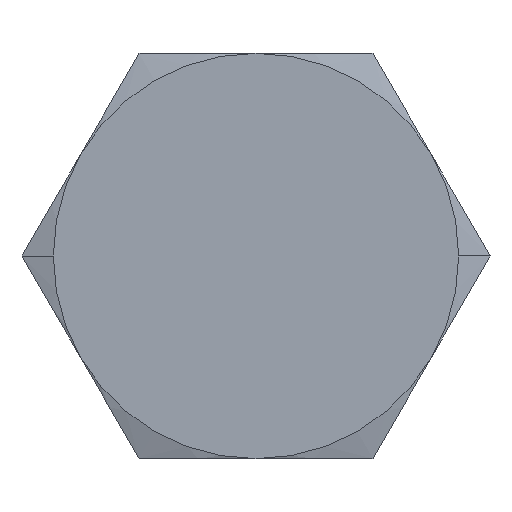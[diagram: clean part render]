
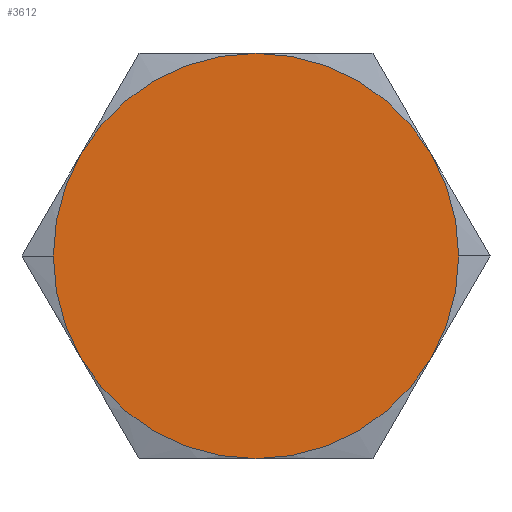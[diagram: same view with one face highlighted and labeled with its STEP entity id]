
A CAD part, left-side view. The second image highlights one B-rep face of the part: STEP entity #3612.
In plain terms, the highlighted planar face has unit normal (-1, 0, 0).
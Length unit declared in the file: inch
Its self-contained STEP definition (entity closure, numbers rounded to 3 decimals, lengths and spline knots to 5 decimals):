
#2576=CARTESIAN_POINT('',(8.26079,5.53675,0.));
#2577=VERTEX_POINT('',#2576);
#2584=CARTESIAN_POINT('',(8.26079,5.46976,-0.25));
#2585=VERTEX_POINT('',#2584);
#2599=CARTESIAN_POINT('',(8.26079,5.03675,0.));
#2600=DIRECTION('',(-1.0,0.0,0.0));
#2601=DIRECTION('',(0.0,1.0,0.0));
#2602=AXIS2_PLACEMENT_3D('',#2599,#2600,#2601);
#2603=CIRCLE('',#2602,0.5);
#2604=EDGE_CURVE('',#2577,#2585,#2603,.T.);
#2614=CARTESIAN_POINT('',(8.26079,4.53675,0.));
#2615=VERTEX_POINT('',#2614);
#2624=CARTESIAN_POINT('',(8.26079,4.60373,-0.25));
#2625=VERTEX_POINT('',#2624);
#2626=CARTESIAN_POINT('',(8.26079,5.03675,0.));
#2627=DIRECTION('',(-1.0,0.0,0.0));
#2628=DIRECTION('',(0.0,1.0,0.0));
#2629=AXIS2_PLACEMENT_3D('',#2626,#2627,#2628);
#2630=CIRCLE('',#2629,0.5);
#2631=EDGE_CURVE('',#2625,#2615,#2630,.T.);
#2656=CARTESIAN_POINT('',(8.26079,4.60373,0.25));
#2657=VERTEX_POINT('',#2656);
#2671=CARTESIAN_POINT('',(8.26079,5.03675,0.5));
#2672=VERTEX_POINT('',#2671);
#2686=CARTESIAN_POINT('',(8.26079,5.03675,0.));
#2687=DIRECTION('',(-1.0,0.0,0.0));
#2688=DIRECTION('',(0.0,1.0,0.0));
#2689=AXIS2_PLACEMENT_3D('',#2686,#2687,#2688);
#2690=CIRCLE('',#2689,0.5);
#2691=EDGE_CURVE('',#2657,#2672,#2690,.T.);
#2715=CARTESIAN_POINT('',(8.26079,5.03675,0.));
#2716=DIRECTION('',(-1.0,0.0,0.0));
#2717=DIRECTION('',(0.0,1.0,0.0));
#2718=AXIS2_PLACEMENT_3D('',#2715,#2716,#2717);
#2719=CIRCLE('',#2718,0.5);
#2720=EDGE_CURVE('',#2615,#2657,#2719,.T.);
#2732=CARTESIAN_POINT('',(8.26079,5.03675,-0.5));
#2733=VERTEX_POINT('',#2732);
#2760=CARTESIAN_POINT('',(8.26079,5.03675,0.));
#2761=DIRECTION('',(-1.0,0.0,0.0));
#2762=DIRECTION('',(0.0,1.0,0.0));
#2763=AXIS2_PLACEMENT_3D('',#2760,#2761,#2762);
#2764=CIRCLE('',#2763,0.5);
#2765=EDGE_CURVE('',#2733,#2625,#2764,.T.);
#2790=CARTESIAN_POINT('',(8.26079,5.03675,0.));
#2791=DIRECTION('',(-1.0,0.0,0.0));
#2792=DIRECTION('',(0.0,1.0,0.0));
#2793=AXIS2_PLACEMENT_3D('',#2790,#2791,#2792);
#2794=CIRCLE('',#2793,0.5);
#2795=EDGE_CURVE('',#2585,#2733,#2794,.T.);
#2819=CARTESIAN_POINT('',(8.26079,5.46976,0.25));
#2820=VERTEX_POINT('',#2819);
#2821=CARTESIAN_POINT('',(8.26079,5.03675,0.));
#2822=DIRECTION('',(-1.0,0.0,0.0));
#2823=DIRECTION('',(0.0,1.0,0.0));
#2824=AXIS2_PLACEMENT_3D('',#2821,#2822,#2823);
#2825=CIRCLE('',#2824,0.5);
#2826=EDGE_CURVE('',#2820,#2577,#2825,.T.);
#2864=CARTESIAN_POINT('',(8.26079,5.03675,0.));
#2865=DIRECTION('',(-1.0,0.0,0.0));
#2866=DIRECTION('',(0.0,1.0,0.0));
#2867=AXIS2_PLACEMENT_3D('',#2864,#2865,#2866);
#2868=CIRCLE('',#2867,0.5);
#2869=EDGE_CURVE('',#2672,#2820,#2868,.T.);
#3597=CARTESIAN_POINT('',(8.26079,5.03675,0.21875));
#3598=DIRECTION('',(-1.0,0.0,0.0));
#3599=DIRECTION('',(0.0,-1.0,0.0));
#3600=AXIS2_PLACEMENT_3D('',#3597,#3598,#3599);
#3601=PLANE('',#3600);
#3602=ORIENTED_EDGE('',*,*,#2869,.T.);
#3603=ORIENTED_EDGE('',*,*,#2826,.T.);
#3604=ORIENTED_EDGE('',*,*,#2604,.T.);
#3605=ORIENTED_EDGE('',*,*,#2795,.T.);
#3606=ORIENTED_EDGE('',*,*,#2765,.T.);
#3607=ORIENTED_EDGE('',*,*,#2631,.T.);
#3608=ORIENTED_EDGE('',*,*,#2720,.T.);
#3609=ORIENTED_EDGE('',*,*,#2691,.T.);
#3610=EDGE_LOOP('',(#3602,#3603,#3604,#3605,#3606,#3607,#3608,#3609));
#3611=FACE_OUTER_BOUND('',#3610,.T.);
#3612=ADVANCED_FACE('',(#3611),#3601,.T.);
